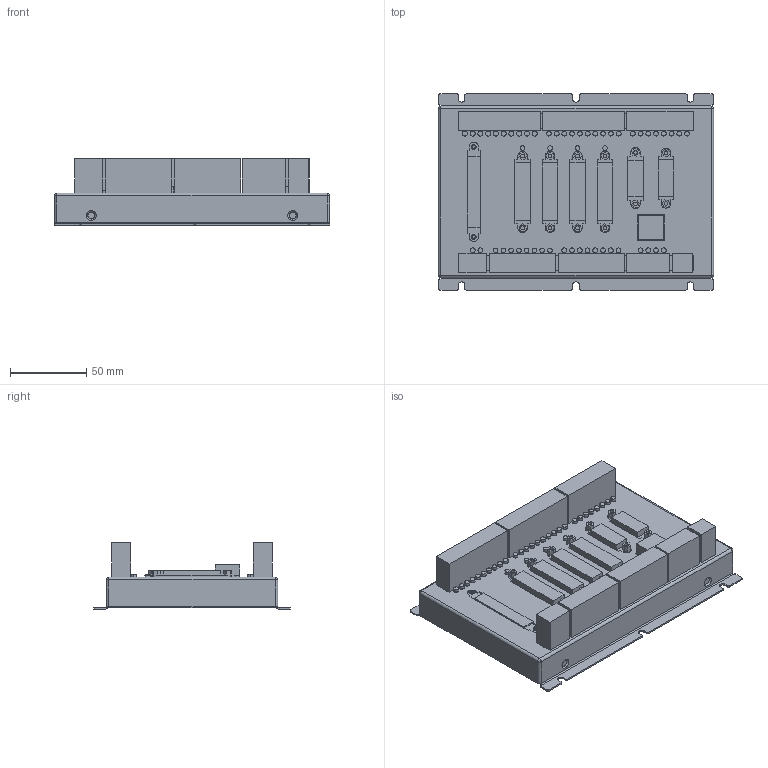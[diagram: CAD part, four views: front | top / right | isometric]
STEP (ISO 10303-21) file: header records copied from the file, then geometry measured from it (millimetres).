
FILE_DESCRIPTION (( 'STEP AP203' ), '1' );
FILE_NAME ('gc400-pcie傷赽3D耀倰芞.STEP', '2020-11-25T04:59:48', ( 'Windows 蚚誧' ), ( ' ' ), 'SwSTEP 2.0', 'SolidWorks 2014', '' );
FILE_SCHEMA (( 'CONFIG_CONTROL_DESIGN' ));
Length unit declared in the file: millimetre
Products named in the file (1): gc400-pcie傷赽3D耀倰芞
Bounding box: 180.4 x 128.5 x 43.5 mm (x, y, z)
Volume: 489778.2 mm3; surface area: 116141.2 mm2
Topology: 23 solids, 77 shells, 826 faces, 1804 edges, 1180 vertices
Faces by surface type: plane 502, cylinder 308, cone 8, torus 6, bspline 2
Entity records: 22693 total; most frequent: DIRECTION 4090, CARTESIAN_POINT 3847, ORIENTED_EDGE 3608, EDGE_CURVE 1804, AXIS2_PLACEMENT_3D 1463, VERTEX_POINT 1180, LINE 1164, VECTOR 1164
